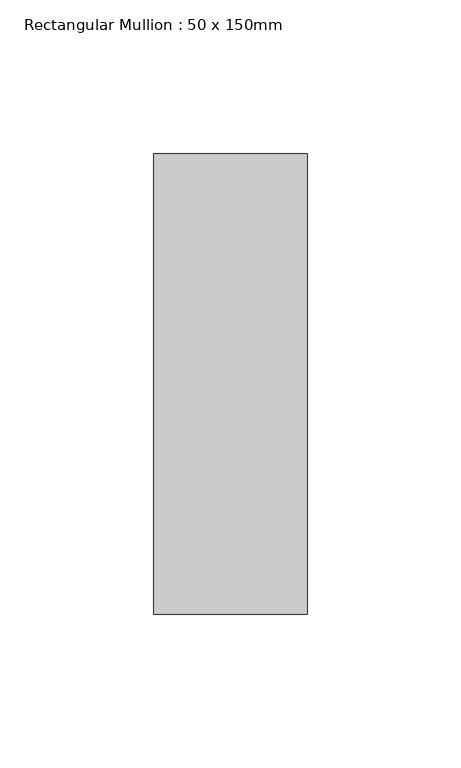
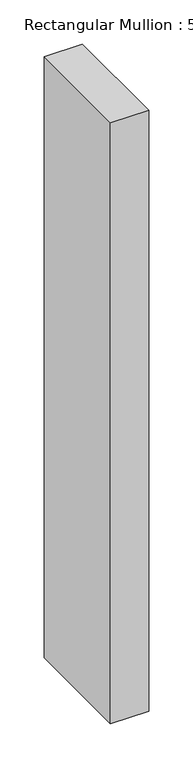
"""IFC4 building model written with IfcOpenShell, lengths in millimetres: member geometry, Rectangular Mullion : 50 x 150mm."""

from ifc_helpers import new_model, si_unit, frame, origin, place, context, project, spatial, polyline, outline, extrude, source, transform, mapped, element, save


def rectangular_mullion_50_x_150mm_8a5bd6a7(model_context):
    return source(origin(), model_context, "Body", "SweptSolid", [
        extrude(outline(polyline([(0.0, 75.0), (0.0, -75.0), (-50.0, -75.0), (-50.0, 75.0), (0.0, 75.0)])), frame((0.0, 0.0, -830.4451468), z_axis=(0.0, 0.0, 1.0), x_axis=(1.0, 0.0, 0.0)), (0.0, 0.0, 1.0), 830.4451468),
    ])


if __name__ == "__main__":
    model = new_model("IFC4")
    model_context = context("Model", 3, world=origin())
    ifc_project = project(units=[si_unit("LENGTHUNIT", "METRE", prefix="MILLI")], contexts=[model_context])
    site = spatial("IfcSite", under=ifc_project)
    building = spatial("IfcBuilding", under=site)
    placement = place(None, origin())
    rectangular_mullion_50_x_150mm_shape = rectangular_mullion_50_x_150mm_8a5bd6a7(model_context)
    element("IfcMember", 1, ObjectType="Rectangular Mullion : 50 x 150mm", at=placement, inside=building, context=model_context, shape_type="MappedRepresentation", body=[
        mapped(rectangular_mullion_50_x_150mm_shape, transform((0.0, 0.0, 0.0), x_axis=(1.0, 0.0, 0.0), y_axis=(0.0, 1.0, 0.0), z_axis=(0.0, 0.0, 1.0))),
    ])
    save(model, "model.ifc")
